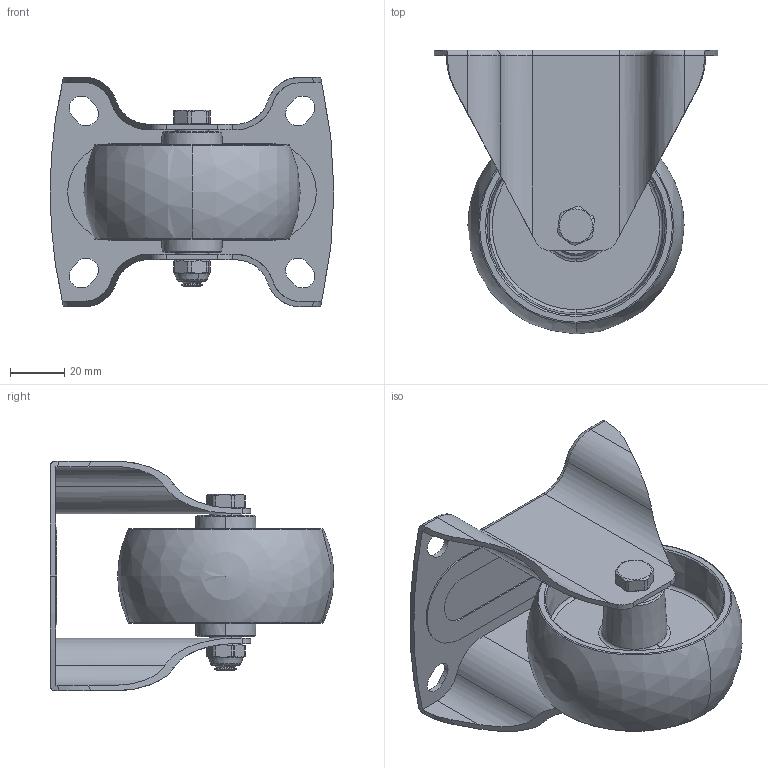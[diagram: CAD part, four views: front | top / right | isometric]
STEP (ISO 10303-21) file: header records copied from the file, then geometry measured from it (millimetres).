
FILE_DESCRIPTION (( 'STEP AP203' ), '1' );
FILE_NAME ('wn8660-fp-80-Wiberger.step', '2026-08-03T06:32:14', ( '' ), ( '' ), 'SwSTEP 2.0', 'SolidWorks 2024', '' );
FILE_SCHEMA (( 'CONFIG_CONTROL_DESIGN' ));
Length unit declared in the file: millimetre
Products named in the file (8): Nut_9540806B-RF_9540806B-RF_Swede-Wheel; Hub_3608030122N-HD_3608030122N-HD_Swede-Wheel; Wheel_3608030122N-HD_3608030122N-HD_Swede-Wheel; Screw_9520860B-RF_9520860B-RF_Swede-Wheel; Bracket_5B0866-RF_5B0866-RF_Swede-Wheel; wn8660-fp-80-Wiberger; Spacer_9326-RF_9326-RF_Swede-Wheel
Assembly tree (7 placements, depth 3):
  wn8660-fp-80-Wiberger
    Bracket_5B0866-RF_5B0866-RF_Swede-Wheel
    Wheel_3608030122N-HD_3608030122N-HD_Swede-Wheel
      Hub_3608030122N-HD_3608030122N-HD_Swede-Wheel
    Spacer_9326-RF_9326-RF_Swede-Wheel
      Spacer_9326-RF_9326-RF_Swede-Wheel
    Nut_9540806B-RF_9540806B-RF_Swede-Wheel
    Screw_9520860B-RF_9520860B-RF_Swede-Wheel
Bounding box: 105 x 105 x 85 mm (x, y, z)
Volume: 112882.9 mm3; surface area: 68164.1 mm2
Topology: 5 solids, 5 shells, 366 faces, 859 edges, 513 vertices
Faces by surface type: cylinder 113, cone 93, torus 90, plane 64, bspline 4, sphere 2
Entity records: 11592 total; most frequent: CARTESIAN_POINT 2140, DIRECTION 2028, ORIENTED_EDGE 1708, AXIS2_PLACEMENT_3D 860, EDGE_CURVE 854, VERTEX_POINT 510, CIRCLE 486, EDGE_LOOP 396
